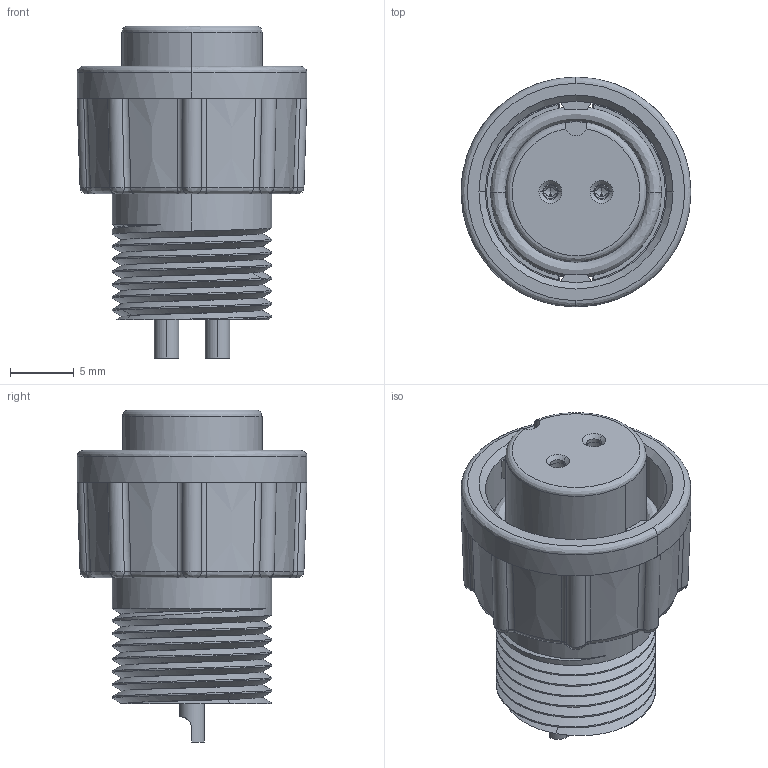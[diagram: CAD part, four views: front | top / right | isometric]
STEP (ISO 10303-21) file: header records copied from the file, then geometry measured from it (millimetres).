
FILE_DESCRIPTION (( 'STEP AP203' ), '1' );
FILE_NAME ('868-02B-203R001.STEP', '2024-06-13T20:02:29', ( '' ), ( '' ), 'SwSTEP 2.0', 'SolidWorks 2020', '' );
FILE_SCHEMA (( 'CONFIG_CONTROL_DESIGN' ));
Length unit declared in the file: millimetre
Products named in the file (1): 868-02B-203R001
Bounding box: 18 x 18 x 26 mm (x, y, z)
Volume: 3124.8 mm3; surface area: 3256.3 mm2
Topology: 2 solids, 2 shells, 240 faces, 613 edges, 377 vertices
Faces by surface type: cylinder 84, plane 63, bspline 50, cone 43
Entity records: 11758 total; most frequent: CARTESIAN_POINT 6494, ORIENTED_EDGE 1210, DIRECTION 935, EDGE_CURVE 605, AXIS2_PLACEMENT_3D 391, VERTEX_POINT 377, EDGE_LOOP 254, FACE_OUTER_BOUND 240
